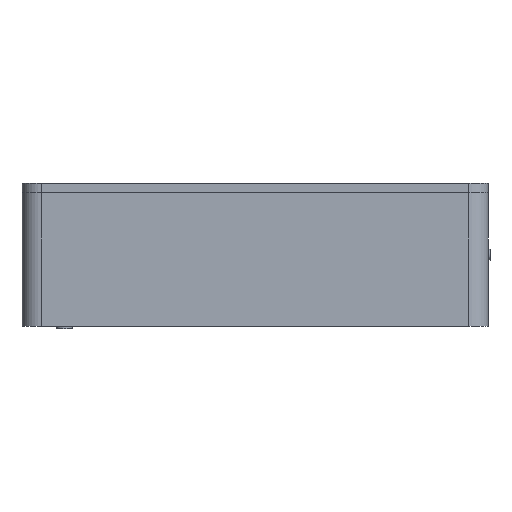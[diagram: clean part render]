
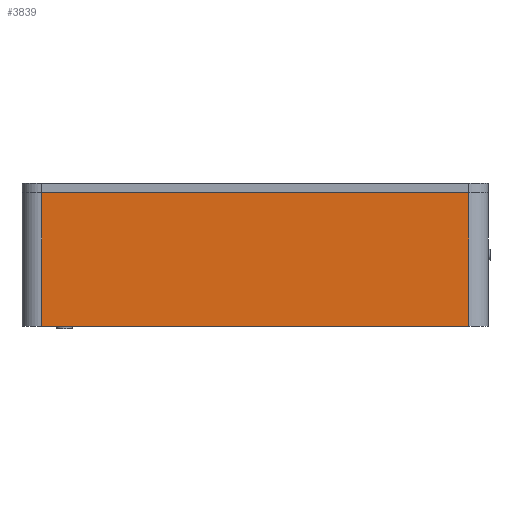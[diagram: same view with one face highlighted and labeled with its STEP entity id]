
A CAD part, left-side view. The second image highlights one B-rep face of the part: STEP entity #3839.
In plain terms, the highlighted planar face has unit normal (-1, 0, 0).
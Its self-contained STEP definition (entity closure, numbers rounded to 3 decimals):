
#106 = PLANE('',#107);
#107 = AXIS2_PLACEMENT_3D('',#108,#109,#110);
#108 = CARTESIAN_POINT('',(97.1,-71.6,41.));
#109 = DIRECTION('',(-0.,-0.,1.));
#110 = DIRECTION('',(1.,0.,0.));
#162 = PLANE('',#163);
#163 = AXIS2_PLACEMENT_3D('',#164,#165,#166);
#164 = CARTESIAN_POINT('',(97.1,-71.6,0.));
#165 = DIRECTION('',(0.,0.,1.));
#166 = DIRECTION('',(1.,0.,0.));
#385 = VERTEX_POINT('',#386);
#386 = CARTESIAN_POINT('',(-97.1,-65.6,41.));
#401 = CYLINDRICAL_SURFACE('',#402,6.);
#402 = AXIS2_PLACEMENT_3D('',#403,#404,#405);
#403 = CARTESIAN_POINT('',(-91.1,-65.6,0.));
#404 = DIRECTION('',(-0.,-0.,1.));
#405 = DIRECTION('',(-1.,-0.,-0.));
#413 = EDGE_CURVE('',#385,#414,#416,.T.);
#414 = VERTEX_POINT('',#415);
#415 = CARTESIAN_POINT('',(-97.1,65.6,41.));
#416 = SURFACE_CURVE('',#417,(#421,#428),.PCURVE_S1.);
#417 = LINE('',#418,#419);
#418 = CARTESIAN_POINT('',(-97.1,-71.6,41.));
#419 = VECTOR('',#420,1.);
#420 = DIRECTION('',(-0.,1.,0.));
#421 = PCURVE('',#106,#422);
#422 = DEFINITIONAL_REPRESENTATION('',(#423),#427);
#423 = LINE('',#424,#425);
#424 = CARTESIAN_POINT('',(-194.2,0.));
#425 = VECTOR('',#426,1.);
#426 = DIRECTION('',(0.,1.));
#427 = ( GEOMETRIC_REPRESENTATION_CONTEXT(2) 
PARAMETRIC_REPRESENTATION_CONTEXT() REPRESENTATION_CONTEXT('2D SPACE',''
  ) );
#428 = PCURVE('',#429,#434);
#429 = PLANE('',#430);
#430 = AXIS2_PLACEMENT_3D('',#431,#432,#433);
#431 = CARTESIAN_POINT('',(-97.1,-71.6,0.));
#432 = DIRECTION('',(-1.,-0.,0.));
#433 = DIRECTION('',(0.,0.,-1.));
#434 = DEFINITIONAL_REPRESENTATION('',(#435),#439);
#435 = LINE('',#436,#437);
#436 = CARTESIAN_POINT('',(-41.,-0.));
#437 = VECTOR('',#438,1.);
#438 = DIRECTION('',(-0.,-1.));
#439 = ( GEOMETRIC_REPRESENTATION_CONTEXT(2) 
PARAMETRIC_REPRESENTATION_CONTEXT() REPRESENTATION_CONTEXT('2D SPACE',''
  ) );
#462 = CYLINDRICAL_SURFACE('',#463,6.);
#463 = AXIS2_PLACEMENT_3D('',#464,#465,#466);
#464 = CARTESIAN_POINT('',(-91.1,65.6,0.));
#465 = DIRECTION('',(-0.,-0.,1.));
#466 = DIRECTION('',(-1.,-0.,-0.));
#1027 = VERTEX_POINT('',#1028);
#1028 = CARTESIAN_POINT('',(-97.1,-65.6,0.));
#1050 = EDGE_CURVE('',#1027,#1051,#1053,.T.);
#1051 = VERTEX_POINT('',#1052);
#1052 = CARTESIAN_POINT('',(-97.1,65.6,0.));
#1053 = SURFACE_CURVE('',#1054,(#1058,#1065),.PCURVE_S1.);
#1054 = LINE('',#1055,#1056);
#1055 = CARTESIAN_POINT('',(-97.1,-71.6,0.));
#1056 = VECTOR('',#1057,1.);
#1057 = DIRECTION('',(-0.,1.,0.));
#1058 = PCURVE('',#162,#1059);
#1059 = DEFINITIONAL_REPRESENTATION('',(#1060),#1064);
#1060 = LINE('',#1061,#1062);
#1061 = CARTESIAN_POINT('',(-194.2,0.));
#1062 = VECTOR('',#1063,1.);
#1063 = DIRECTION('',(-0.,1.));
#1064 = ( GEOMETRIC_REPRESENTATION_CONTEXT(2) 
PARAMETRIC_REPRESENTATION_CONTEXT() REPRESENTATION_CONTEXT('2D SPACE',''
  ) );
#1065 = PCURVE('',#429,#1066);
#1066 = DEFINITIONAL_REPRESENTATION('',(#1067),#1071);
#1067 = LINE('',#1068,#1069);
#1068 = CARTESIAN_POINT('',(-0.,-0.));
#1069 = VECTOR('',#1070,1.);
#1070 = DIRECTION('',(-0.,-1.));
#1071 = ( GEOMETRIC_REPRESENTATION_CONTEXT(2) 
PARAMETRIC_REPRESENTATION_CONTEXT() REPRESENTATION_CONTEXT('2D SPACE',''
  ) );
#3792 = EDGE_CURVE('',#1027,#385,#3793,.T.);
#3793 = SURFACE_CURVE('',#3794,(#3798,#3805),.PCURVE_S1.);
#3794 = LINE('',#3795,#3796);
#3795 = CARTESIAN_POINT('',(-97.1,-65.6,0.));
#3796 = VECTOR('',#3797,1.);
#3797 = DIRECTION('',(-0.,-0.,1.));
#3798 = PCURVE('',#401,#3799);
#3799 = DEFINITIONAL_REPRESENTATION('',(#3800),#3804);
#3800 = LINE('',#3801,#3802);
#3801 = CARTESIAN_POINT('',(0.,0.));
#3802 = VECTOR('',#3803,1.);
#3803 = DIRECTION('',(0.,1.));
#3804 = ( GEOMETRIC_REPRESENTATION_CONTEXT(2) 
PARAMETRIC_REPRESENTATION_CONTEXT() REPRESENTATION_CONTEXT('2D SPACE',''
  ) );
#3805 = PCURVE('',#429,#3806);
#3806 = DEFINITIONAL_REPRESENTATION('',(#3807),#3811);
#3807 = LINE('',#3808,#3809);
#3808 = CARTESIAN_POINT('',(-0.,-6.));
#3809 = VECTOR('',#3810,1.);
#3810 = DIRECTION('',(-1.,-0.));
#3811 = ( GEOMETRIC_REPRESENTATION_CONTEXT(2) 
PARAMETRIC_REPRESENTATION_CONTEXT() REPRESENTATION_CONTEXT('2D SPACE',''
  ) );
#3819 = EDGE_CURVE('',#1051,#414,#3820,.T.);
#3820 = SURFACE_CURVE('',#3821,(#3825,#3832),.PCURVE_S1.);
#3821 = LINE('',#3822,#3823);
#3822 = CARTESIAN_POINT('',(-97.1,65.6,0.));
#3823 = VECTOR('',#3824,1.);
#3824 = DIRECTION('',(-0.,-0.,1.));
#3825 = PCURVE('',#462,#3826);
#3826 = DEFINITIONAL_REPRESENTATION('',(#3827),#3831);
#3827 = LINE('',#3828,#3829);
#3828 = CARTESIAN_POINT('',(-0.,0.));
#3829 = VECTOR('',#3830,1.);
#3830 = DIRECTION('',(-0.,1.));
#3831 = ( GEOMETRIC_REPRESENTATION_CONTEXT(2) 
PARAMETRIC_REPRESENTATION_CONTEXT() REPRESENTATION_CONTEXT('2D SPACE',''
  ) );
#3832 = PCURVE('',#429,#3833);
#3833 = DEFINITIONAL_REPRESENTATION('',(#3834),#3838);
#3834 = LINE('',#3835,#3836);
#3835 = CARTESIAN_POINT('',(-0.,-137.2));
#3836 = VECTOR('',#3837,1.);
#3837 = DIRECTION('',(-1.,-0.));
#3838 = ( GEOMETRIC_REPRESENTATION_CONTEXT(2) 
PARAMETRIC_REPRESENTATION_CONTEXT() REPRESENTATION_CONTEXT('2D SPACE',''
  ) );
#3839 = ADVANCED_FACE('',(#3840),#429,.T.);
#3840 = FACE_BOUND('',#3841,.F.);
#3841 = EDGE_LOOP('',(#3842,#3843,#3844,#3845));
#3842 = ORIENTED_EDGE('',*,*,#413,.F.);
#3843 = ORIENTED_EDGE('',*,*,#3792,.F.);
#3844 = ORIENTED_EDGE('',*,*,#1050,.T.);
#3845 = ORIENTED_EDGE('',*,*,#3819,.T.);
